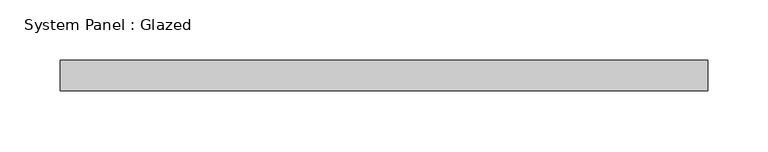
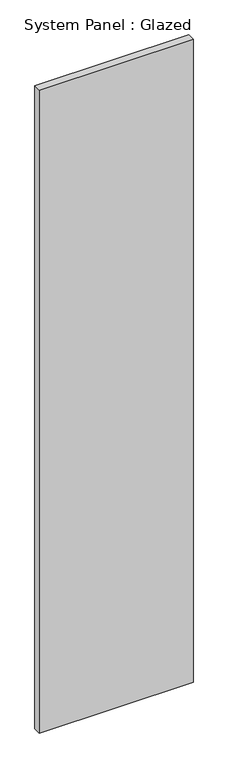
"""IFC4 building model written with IfcOpenShell, lengths in millimetres: plate geometry, System Panel : Glazed."""

from ifc_helpers import new_model, si_unit, origin, origin_with_axes, place, context, project, spatial, polyline, outline, extrude, source, transform, mapped, element, save


def system_panel_glazed_0196836e(model_context):
    return source(origin(), model_context, "Body", "SweptSolid", [
        extrude(outline(polyline([(268.8139645, -44.45), (-268.8139645, -44.45), (-268.8139645, -19.05), (268.8139645, -19.05), (268.8139645, -44.45)])), origin_with_axes(), (0.0, 0.0, 1.0), 2374.9),
    ])


if __name__ == "__main__":
    model = new_model("IFC4")
    model_context = context("Model", 3, world=origin())
    ifc_project = project(units=[si_unit("LENGTHUNIT", "METRE", prefix="MILLI")], contexts=[model_context])
    site = spatial("IfcSite", under=ifc_project)
    building = spatial("IfcBuilding", under=site)
    placement = place(None, origin())
    system_panel_glazed_shape = system_panel_glazed_0196836e(model_context)
    element("IfcPlate", 1, ObjectType="System Panel : Glazed", at=placement, inside=building, context=model_context, shape_type="MappedRepresentation", body=[
        mapped(system_panel_glazed_shape, transform((0.0, 0.0, 0.0), x_axis=(1.0, 0.0, 0.0), y_axis=(0.0, 1.0, 0.0), z_axis=(0.0, 0.0, 1.0))),
    ])
    save(model, "model.ifc")
